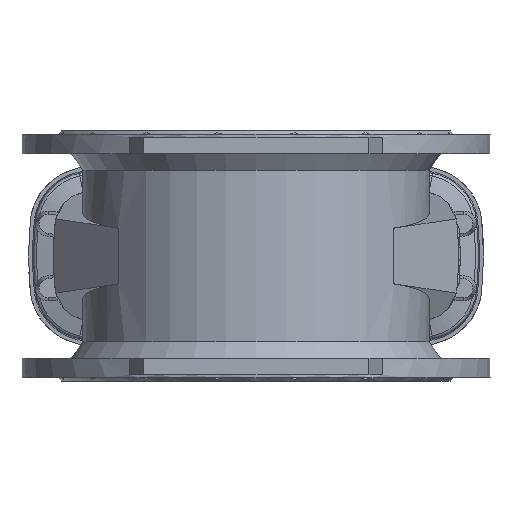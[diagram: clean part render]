
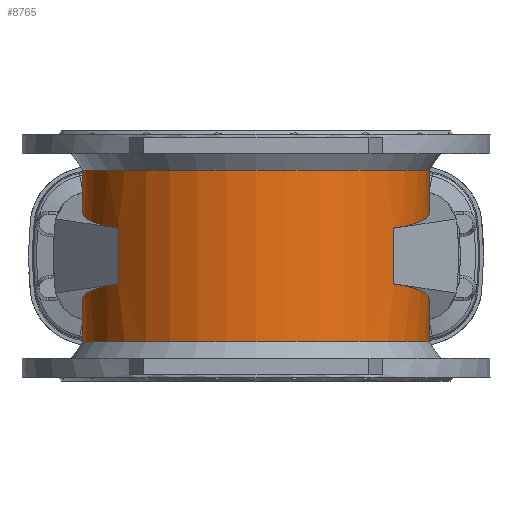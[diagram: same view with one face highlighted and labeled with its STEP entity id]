
A CAD part, front view. The second image highlights one B-rep face of the part: STEP entity #8765.
In plain terms, the highlighted cylindrical face has radius 214.499 mm (diameter 428.998 mm), a partial arc.
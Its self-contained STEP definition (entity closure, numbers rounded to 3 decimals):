
#1891 =( BOUNDED_CURVE ( )  B_SPLINE_CURVE ( 3, ( #14341, #14336, #14337, #14342 ),
 .UNSPECIFIED., .F., .F. ) 
 B_SPLINE_CURVE_WITH_KNOTS ( ( 4, 4 ),
 ( 0.796, 2.98 ),
 .UNSPECIFIED. ) 
 CURVE ( )  GEOMETRIC_REPRESENTATION_ITEM ( )  RATIONAL_B_SPLINE_CURVE ( ( 1., 0.641, 0.641, 1. ) ) 
 REPRESENTATION_ITEM ( '' )  );
#2881 = CARTESIAN_POINT ( 'NONE',  ( 0., 0., 106.291 ) ) ;
#2882 = DIRECTION ( 'NONE',  ( 0., 0., -1. ) ) ;
#2883 = DIRECTION ( 'NONE',  ( 1., 0., 0. ) ) ;
#2992 = CARTESIAN_POINT ( 'NONE',  ( -170.765, -129.804, -500000. ) ) ;
#3022 = DIRECTION ( 'NONE',  ( 0., 0., 1. ) ) ;
#3061 = CARTESIAN_POINT ( 'NONE',  ( -170.765, -129.804, 34.456 ) ) ;
#3070 = CARTESIAN_POINT ( 'NONE',  ( -290.636, 27.894, 54.506 ) ) ;
#3089 = CARTESIAN_POINT ( 'NONE',  ( -205.947, 206.962, 81.165 ) ) ;
#3090 = CARTESIAN_POINT ( 'NONE',  ( -8., 214.35, 85.693 ) ) ;
#3271 = CARTESIAN_POINT ( 'NONE',  ( -170.765, -129.804, 34.456 ) ) ;
#3526 = DIRECTION ( 'NONE',  ( 1., 0., 0. ) ) ;
#3531 = DIRECTION ( 'NONE',  ( 0., 0., 1. ) ) ;
#3533 = CARTESIAN_POINT ( 'NONE',  ( 0., 0., -500000. ) ) ;
#5026 =( BOUNDED_CURVE ( )  B_SPLINE_CURVE ( 3, ( #3061, #3070, #3089, #3090 ),
 .UNSPECIFIED., .F., .F. ) 
 B_SPLINE_CURVE_WITH_KNOTS ( ( 4, 4 ),
 ( 3.938, 6.121 ),
 .UNSPECIFIED. ) 
 CURVE ( )  GEOMETRIC_REPRESENTATION_ITEM ( )  RATIONAL_B_SPLINE_CURVE ( ( 1., 0.641, 0.641, 1. ) ) 
 REPRESENTATION_ITEM ( '' )  );
#5222 = VERTEX_POINT ( 'NONE', #8319 ) ;
#5243 = VERTEX_POINT ( 'NONE', #8334 ) ;
#5417 =( BOUNDED_CURVE ( )  B_SPLINE_CURVE ( 3, ( #5542, #5539, #5534, #5544 ),
 .UNSPECIFIED., .F., .F. ) 
 B_SPLINE_CURVE_WITH_KNOTS ( ( 4, 4 ),
 ( 0.162, 2.346 ),
 .UNSPECIFIED. ) 
 CURVE ( )  GEOMETRIC_REPRESENTATION_ITEM ( )  RATIONAL_B_SPLINE_CURVE ( ( 1., 0.641, 0.641, 1. ) ) 
 REPRESENTATION_ITEM ( '' )  );
#5421 =( BOUNDED_CURVE ( )  B_SPLINE_CURVE ( 3, ( #5562, #5557, #5558, #5563 ),
 .UNSPECIFIED., .F., .F. ) 
 B_SPLINE_CURVE_WITH_KNOTS ( ( 4, 4 ),
 ( 3.304, 5.487 ),
 .UNSPECIFIED. ) 
 CURVE ( )  GEOMETRIC_REPRESENTATION_ITEM ( )  RATIONAL_B_SPLINE_CURVE ( ( 1., 0.641, 0.641, 1. ) ) 
 REPRESENTATION_ITEM ( '' )  );
#5534 = CARTESIAN_POINT ( 'NONE',  ( 290.636, 27.894, 54.506 ) ) ;
#5539 = CARTESIAN_POINT ( 'NONE',  ( 205.947, 206.962, 81.165 ) ) ;
#5542 = CARTESIAN_POINT ( 'NONE',  ( 8., 214.35, 85.693 ) ) ;
#5544 = CARTESIAN_POINT ( 'NONE',  ( 170.765, -129.804, 34.456 ) ) ;
#5557 = CARTESIAN_POINT ( 'NONE',  ( -205.947, 206.962, -81.165 ) ) ;
#5558 = CARTESIAN_POINT ( 'NONE',  ( -290.636, 27.894, -54.506 ) ) ;
#5562 = CARTESIAN_POINT ( 'NONE',  ( -8., 214.35, -85.693 ) ) ;
#5563 = CARTESIAN_POINT ( 'NONE',  ( -170.765, -129.804, -34.456 ) ) ;
#7320 = AXIS2_PLACEMENT_3D ( 'NONE', #3533, #3531, #3526 ) ;
#7404 = AXIS2_PLACEMENT_3D ( 'NONE', #12576, #12577, #12578 ) ;
#7699 = EDGE_CURVE ( 'NONE', #11265, #11445, #16242, .T. ) ;
#7706 = EDGE_CURVE ( 'NONE', #8872, #11280, #16253, .T. ) ;
#7734 = EDGE_CURVE ( 'NONE', #11498, #11526, #16283, .T. ) ;
#7783 = EDGE_CURVE ( 'NONE', #11280, #11265, #5417, .T. ) ;
#7788 = EDGE_CURVE ( 'NONE', #11526, #11531, #5421, .T. ) ;
#7970 = EDGE_CURVE ( 'NONE', #8872, #5222, #12854, .T. ) ;
#8005 = EDGE_CURVE ( 'NONE', #11531, #8064, #12885, .T. ) ;
#8018 = EDGE_CURVE ( 'NONE', #8064, #5243, #5026, .T. ) ;
#8064 = VERTEX_POINT ( 'NONE', #3271 ) ;
#8319 = CARTESIAN_POINT ( 'NONE',  ( -8., 214.35, 106.291 ) ) ;
#8334 = CARTESIAN_POINT ( 'NONE',  ( -8., 214.35, 85.693 ) ) ;
#8449 = CARTESIAN_POINT ( 'NONE',  ( 170.765, -129.804, -500000. ) ) ;
#8453 = DIRECTION ( 'NONE',  ( 0., 0., -1. ) ) ;
#8516 = DIRECTION ( 'NONE',  ( 0., 0., -1. ) ) ;
#8520 = CARTESIAN_POINT ( 'NONE',  ( 8., 214.35, -500000. ) ) ;
#8616 = CARTESIAN_POINT ( 'NONE',  ( -8., 214.35, -500000. ) ) ;
#8629 = DIRECTION ( 'NONE',  ( 0., 0., 1. ) ) ;
#8765 = ADVANCED_FACE ( 'NONE', ( #12980 ), #12984, .T. ) ;
#8872 = VERTEX_POINT ( 'NONE', #12535 ) ;
#8886 = EDGE_CURVE ( 'NONE', #11498, #11511, #13154, .T. ) ;
#9084 = EDGE_CURVE ( 'NONE', #11445, #11482, #1891, .T. ) ;
#11047 = EDGE_LOOP ( 'NONE', ( #11375, #11376, #11377, #11378, #11379, #11380, #11381, #11382, #11383, #11384, #11385, #11386 ) ) ;
#11265 = VERTEX_POINT ( 'NONE', #16792 ) ;
#11280 = VERTEX_POINT ( 'NONE', #16804 ) ;
#11375 = ORIENTED_EDGE ( 'NONE', *, *, #11646, .F. ) ;
#11376 = ORIENTED_EDGE ( 'NONE', *, *, #8018, .F. ) ;
#11377 = ORIENTED_EDGE ( 'NONE', *, *, #8005, .F. ) ;
#11378 = ORIENTED_EDGE ( 'NONE', *, *, #7788, .F. ) ;
#11379 = ORIENTED_EDGE ( 'NONE', *, *, #7734, .F. ) ;
#11380 = ORIENTED_EDGE ( 'NONE', *, *, #8886, .T. ) ;
#11381 = ORIENTED_EDGE ( 'NONE', *, *, #11762, .F. ) ;
#11382 = ORIENTED_EDGE ( 'NONE', *, *, #9084, .F. ) ;
#11383 = ORIENTED_EDGE ( 'NONE', *, *, #7699, .F. ) ;
#11384 = ORIENTED_EDGE ( 'NONE', *, *, #7783, .F. ) ;
#11385 = ORIENTED_EDGE ( 'NONE', *, *, #7706, .F. ) ;
#11386 = ORIENTED_EDGE ( 'NONE', *, *, #7970, .T. ) ;
#11445 = VERTEX_POINT ( 'NONE', #16854 ) ;
#11482 = VERTEX_POINT ( 'NONE', #16872 ) ;
#11498 = VERTEX_POINT ( 'NONE', #16885 ) ;
#11511 = VERTEX_POINT ( 'NONE', #16896 ) ;
#11526 = VERTEX_POINT ( 'NONE', #16911 ) ;
#11531 = VERTEX_POINT ( 'NONE', #16916 ) ;
#11646 = EDGE_CURVE ( 'NONE', #5243, #5222, #15479, .T. ) ;
#11762 = EDGE_CURVE ( 'NONE', #11482, #11511, #15556, .T. ) ;
#12134 = AXIS2_PLACEMENT_3D ( 'NONE', #2881, #2882, #2883 ) ;
#12535 = CARTESIAN_POINT ( 'NONE',  ( 8., 214.35, 106.291 ) ) ;
#12576 = CARTESIAN_POINT ( 'NONE',  ( 0., 0., -106.291 ) ) ;
#12577 = DIRECTION ( 'NONE',  ( 0., 0., 1. ) ) ;
#12578 = DIRECTION ( 'NONE',  ( -1., 0., 0. ) ) ;
#12854 = CIRCLE ( 'NONE', #12134, 214.499 ) ;
#12885 = LINE ( 'NONE', #2992, #12894 ) ;
#12894 = VECTOR ( 'NONE', #3022, 1000. ) ;
#12980 = FACE_OUTER_BOUND ( 'NONE', #11047, .T. ) ;
#12984 = CYLINDRICAL_SURFACE ( 'NONE', #7320, 214.499 ) ;
#13154 = CIRCLE ( 'NONE', #7404, 214.499 ) ;
#14336 = CARTESIAN_POINT ( 'NONE',  ( 290.636, 27.894, -54.506 ) ) ;
#14337 = CARTESIAN_POINT ( 'NONE',  ( 205.947, 206.962, -81.165 ) ) ;
#14341 = CARTESIAN_POINT ( 'NONE',  ( 170.765, -129.804, -34.456 ) ) ;
#14342 = CARTESIAN_POINT ( 'NONE',  ( 8., 214.35, -85.693 ) ) ;
#15479 = LINE ( 'NONE', #16995, #15489 ) ;
#15489 = VECTOR ( 'NONE', #16988, 1000. ) ;
#15556 = LINE ( 'NONE', #17184, #15560 ) ;
#15560 = VECTOR ( 'NONE', #17185, 1000. ) ;
#16242 = LINE ( 'NONE', #8449, #16251 ) ;
#16251 = VECTOR ( 'NONE', #8453, 1000. ) ;
#16253 = LINE ( 'NONE', #8520, #16255 ) ;
#16255 = VECTOR ( 'NONE', #8516, 1000. ) ;
#16283 = LINE ( 'NONE', #8616, #16286 ) ;
#16286 = VECTOR ( 'NONE', #8629, 1000. ) ;
#16792 = CARTESIAN_POINT ( 'NONE',  ( 170.765, -129.804, 34.456 ) ) ;
#16804 = CARTESIAN_POINT ( 'NONE',  ( 8., 214.35, 85.693 ) ) ;
#16854 = CARTESIAN_POINT ( 'NONE',  ( 170.765, -129.804, -34.456 ) ) ;
#16872 = CARTESIAN_POINT ( 'NONE',  ( 8., 214.35, -85.693 ) ) ;
#16885 = CARTESIAN_POINT ( 'NONE',  ( -8., 214.35, -106.291 ) ) ;
#16896 = CARTESIAN_POINT ( 'NONE',  ( 8., 214.35, -106.291 ) ) ;
#16911 = CARTESIAN_POINT ( 'NONE',  ( -8., 214.35, -85.693 ) ) ;
#16916 = CARTESIAN_POINT ( 'NONE',  ( -170.765, -129.804, -34.456 ) ) ;
#16988 = DIRECTION ( 'NONE',  ( 0., 0., 1. ) ) ;
#16995 = CARTESIAN_POINT ( 'NONE',  ( -8., 214.35, -500000. ) ) ;
#17184 = CARTESIAN_POINT ( 'NONE',  ( 8., 214.35, -500000. ) ) ;
#17185 = DIRECTION ( 'NONE',  ( 0., 0., -1. ) ) ;
